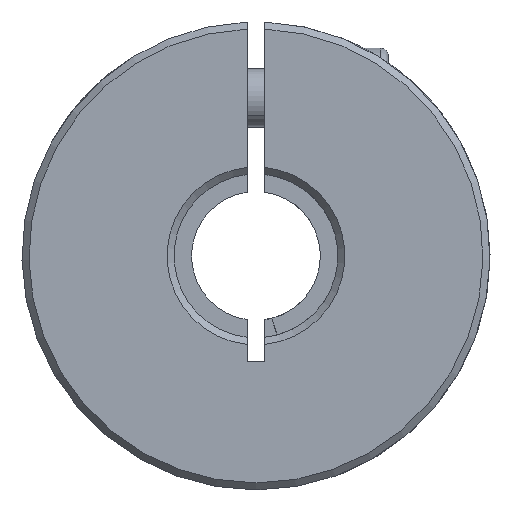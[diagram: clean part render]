
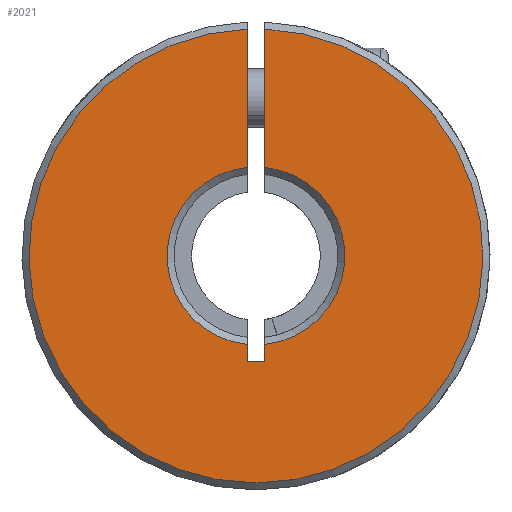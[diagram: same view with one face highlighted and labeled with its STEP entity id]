
A CAD part, front view. The second image highlights one B-rep face of the part: STEP entity #2021.
In plain terms, the highlighted planar face has unit normal (0, -1, 0).
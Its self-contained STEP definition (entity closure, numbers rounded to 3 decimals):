
#2 = DIRECTION ( 'NONE',  ( 0., 1., 0. ) ) ;
#3 = CARTESIAN_POINT ( 'NONE',  ( -0.75, -25., -7.563 ) ) ;
#48 = ORIENTED_EDGE ( 'NONE', *, *, #2291, .T. ) ;
#109 = CARTESIAN_POINT ( 'NONE',  ( 0., -25., 0. ) ) ;
#196 = CARTESIAN_POINT ( 'NONE',  ( 0., -25., 0. ) ) ;
#222 = ORIENTED_EDGE ( 'NONE', *, *, #4333, .T. ) ;
#297 = DIRECTION ( 'NONE',  ( 0., 1., 0. ) ) ;
#438 = AXIS2_PLACEMENT_3D ( 'NONE', #1272, #297, #2239 ) ;
#457 = DIRECTION ( 'NONE',  ( 0., 0., 1. ) ) ;
#474 = ORIENTED_EDGE ( 'NONE', *, *, #1849, .T. ) ;
#506 = VERTEX_POINT ( 'NONE', #3283 ) ;
#672 = LINE ( 'NONE', #1185, #5324 ) ;
#697 = DIRECTION ( 'NONE',  ( 0., 0., -1. ) ) ;
#776 = VERTEX_POINT ( 'NONE', #3677 ) ;
#887 = ORIENTED_EDGE ( 'NONE', *, *, #5476, .T. ) ;
#961 = CARTESIAN_POINT ( 'NONE',  ( 0.75, -25., 19.385 ) ) ;
#1018 = CIRCLE ( 'NONE', #3064, 7.6 ) ;
#1030 = VERTEX_POINT ( 'NONE', #1609 ) ;
#1185 = CARTESIAN_POINT ( 'NONE',  ( -0.75, -25., -9. ) ) ;
#1208 = VECTOR ( 'NONE', #697, 1000. ) ;
#1213 = DIRECTION ( 'NONE',  ( 0., 0., 1. ) ) ;
#1226 = EDGE_CURVE ( 'NONE', #776, #1523, #5254, .T. ) ;
#1272 = CARTESIAN_POINT ( 'NONE',  ( 0., -25., 0. ) ) ;
#1504 = VECTOR ( 'NONE', #4825, 1000. ) ;
#1518 = LINE ( 'NONE', #5710, #1208 ) ;
#1523 = VERTEX_POINT ( 'NONE', #4386 ) ;
#1542 = DIRECTION ( 'NONE',  ( 0., 0., 1. ) ) ;
#1609 = CARTESIAN_POINT ( 'NONE',  ( -0.75, -25., 19.385 ) ) ;
#1635 = DIRECTION ( 'NONE',  ( 0., 1., 0. ) ) ;
#1660 = VERTEX_POINT ( 'NONE', #3 ) ;
#1688 = VECTOR ( 'NONE', #3041, 1000. ) ;
#1849 = EDGE_CURVE ( 'NONE', #506, #1660, #672, .T. ) ;
#2021 = ADVANCED_FACE ( 'NONE', ( #4098 ), #3238, .F. ) ;
#2217 = EDGE_CURVE ( 'NONE', #3399, #776, #3973, .T. ) ;
#2239 = DIRECTION ( 'NONE',  ( 0., 0., 1. ) ) ;
#2248 = CARTESIAN_POINT ( 'NONE',  ( -0.75, -25., 7.563 ) ) ;
#2291 = EDGE_CURVE ( 'NONE', #4872, #506, #3573, .T. ) ;
#2717 = VECTOR ( 'NONE', #3169, 1000. ) ;
#3041 = DIRECTION ( 'NONE',  ( 0., 0., 1. ) ) ;
#3064 = AXIS2_PLACEMENT_3D ( 'NONE', #5616, #2, #457 ) ;
#3169 = DIRECTION ( 'NONE',  ( -1., 0., 0. ) ) ;
#3238 = PLANE ( 'NONE',  #438 ) ;
#3283 = CARTESIAN_POINT ( 'NONE',  ( -0.75, -25., -9. ) ) ;
#3399 = VERTEX_POINT ( 'NONE', #961 ) ;
#3448 = DIRECTION ( 'NONE',  ( 0., 0., 1. ) ) ;
#3474 = EDGE_LOOP ( 'NONE', ( #5651, #4238, #4597, #48, #474, #887, #222, #5155 ) ) ;
#3573 = LINE ( 'NONE', #5944, #2717 ) ;
#3582 = VERTEX_POINT ( 'NONE', #2248 ) ;
#3677 = CARTESIAN_POINT ( 'NONE',  ( 0.75, -25., 7.563 ) ) ;
#3849 = DIRECTION ( 'NONE',  ( 0., -1., 0. ) ) ;
#3973 = LINE ( 'NONE', #4462, #1504 ) ;
#4098 = FACE_OUTER_BOUND ( 'NONE', #3474, .T. ) ;
#4221 = EDGE_CURVE ( 'NONE', #1030, #3399, #5836, .T. ) ;
#4238 = ORIENTED_EDGE ( 'NONE', *, *, #1226, .T. ) ;
#4284 = AXIS2_PLACEMENT_3D ( 'NONE', #196, #1635, #3448 ) ;
#4333 = EDGE_CURVE ( 'NONE', #3582, #1030, #5344, .T. ) ;
#4386 = CARTESIAN_POINT ( 'NONE',  ( 0.75, -25., -7.563 ) ) ;
#4428 = CARTESIAN_POINT ( 'NONE',  ( -0.75, -25., -9. ) ) ;
#4462 = CARTESIAN_POINT ( 'NONE',  ( 0.75, -25., -9. ) ) ;
#4582 = AXIS2_PLACEMENT_3D ( 'NONE', #109, #3849, #1542 ) ;
#4597 = ORIENTED_EDGE ( 'NONE', *, *, #5663, .T. ) ;
#4813 = CARTESIAN_POINT ( 'NONE',  ( 0.75, -25., -9. ) ) ;
#4825 = DIRECTION ( 'NONE',  ( 0., 0., -1. ) ) ;
#4872 = VERTEX_POINT ( 'NONE', #4813 ) ;
#5155 = ORIENTED_EDGE ( 'NONE', *, *, #4221, .T. ) ;
#5254 = CIRCLE ( 'NONE', #4284, 7.6 ) ;
#5324 = VECTOR ( 'NONE', #1213, 1000. ) ;
#5344 = LINE ( 'NONE', #4428, #1688 ) ;
#5476 = EDGE_CURVE ( 'NONE', #1660, #3582, #1018, .T. ) ;
#5616 = CARTESIAN_POINT ( 'NONE',  ( 0., -25., 0. ) ) ;
#5651 = ORIENTED_EDGE ( 'NONE', *, *, #2217, .T. ) ;
#5663 = EDGE_CURVE ( 'NONE', #1523, #4872, #1518, .T. ) ;
#5710 = CARTESIAN_POINT ( 'NONE',  ( 0.75, -25., -9. ) ) ;
#5836 = CIRCLE ( 'NONE', #4582, 19.4 ) ;
#5944 = CARTESIAN_POINT ( 'NONE',  ( -0.75, -25., -9. ) ) ;
